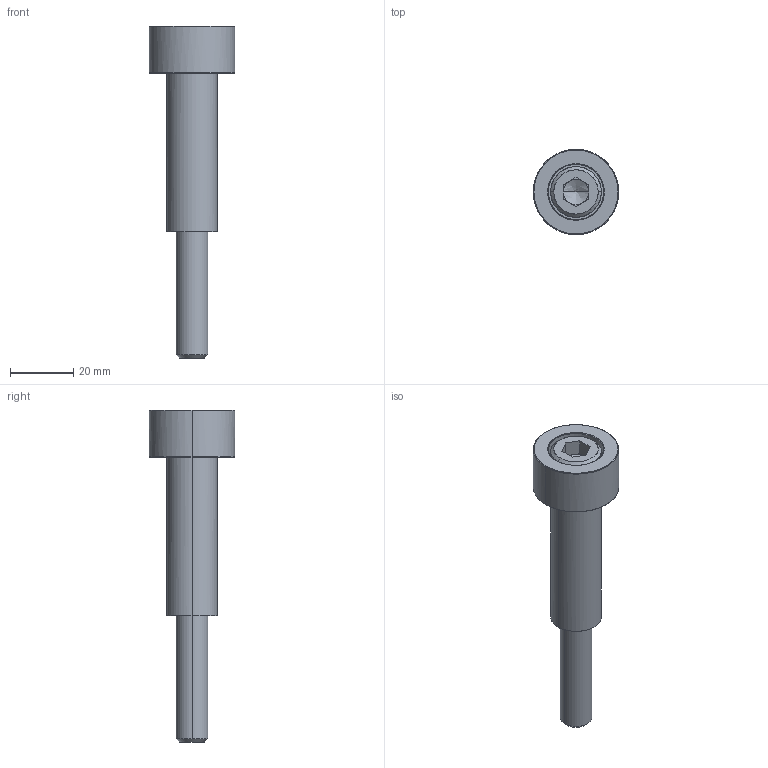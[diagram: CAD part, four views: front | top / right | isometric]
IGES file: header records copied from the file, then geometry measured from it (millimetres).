
Global section: file name: E:\UnigraphicsGraphicData\MISUMI_PRESS-PARTS\IGES\3d_sbjh16-50-95_05046_r00.igs; native system: NX V5.0; preprocessor: UGS NX IGES V5.0; author: MISUMI; date: 20110105.162425; units: millimetre
Bounding box: 27 x 26.97 x 105 mm (x, y, z)
Surface area: 11253 mm2 (no closed solid volume)
Topology: 0 solids, 0 shells, 48 faces, 298 edges, 296 vertices
Faces by surface type: bspline 48
